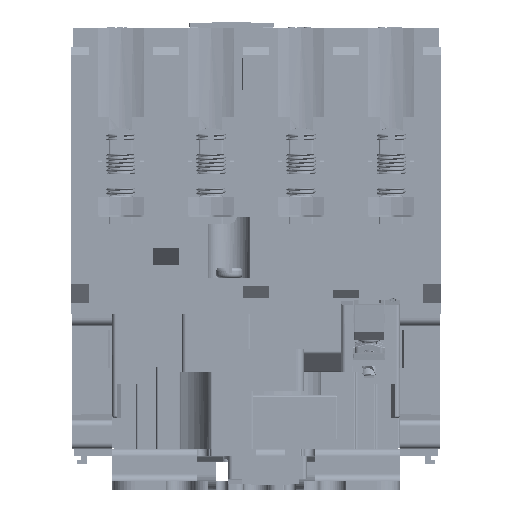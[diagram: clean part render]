
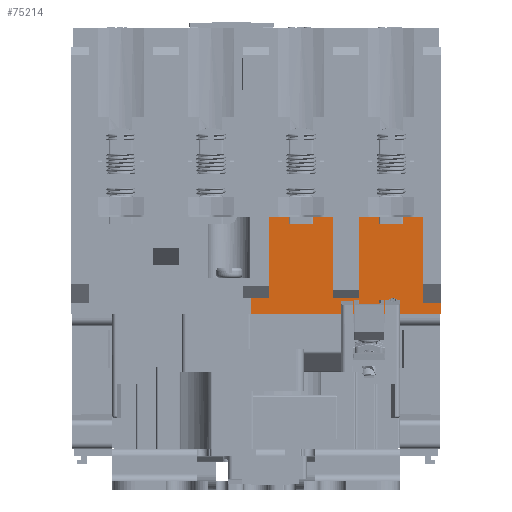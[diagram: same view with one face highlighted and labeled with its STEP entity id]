
A CAD part, left-side view. The second image highlights one B-rep face of the part: STEP entity #75214.
In plain terms, the highlighted planar face has unit normal (-1, 0, 0) as drawn and (0, 1, 0) by its records, which use the part's own axes.
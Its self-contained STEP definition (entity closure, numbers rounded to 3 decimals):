
#70352=DIRECTION('',(0.,0.,1.));
#70353=VECTOR('',#70352,3.);
#70354=CARTESIAN_POINT('',(-48.25,45.75,0.));
#70355=LINE('',#70354,#70353);
#71338=DIRECTION('',(1.,0.,0.));
#71339=VECTOR('',#71338,4.6);
#71340=CARTESIAN_POINT('',(-48.25,45.75,3.));
#71341=LINE('',#71340,#71339);
#71342=DIRECTION('',(1.,0.,0.));
#71343=VECTOR('',#71342,49.5);
#71344=CARTESIAN_POINT('',(-48.25,45.75,0.));
#71345=LINE('',#71344,#71343);
#71346=DIRECTION('',(0.,0.,1.));
#71347=VECTOR('',#71346,4.3);
#71348=CARTESIAN_POINT('',(1.25,45.75,0.));
#71349=LINE('',#71348,#71347);
#71350=DIRECTION('',(0.,0.,-1.));
#71351=VECTOR('',#71350,21.2);
#71352=CARTESIAN_POINT('',(-20.15,45.75,25.5));
#71353=LINE('',#71352,#71351);
#71354=DIRECTION('',(0.,0.,-1.));
#71355=VECTOR('',#71354,22.5);
#71356=CARTESIAN_POINT('',(-43.65,45.75,25.5));
#71357=LINE('',#71356,#71355);
#71526=DIRECTION('',(0.,0.,-1.));
#71527=VECTOR('',#71526,21.2);
#71528=CARTESIAN_POINT('',(-3.35,45.75,25.5));
#71529=LINE('',#71528,#71527);
#71598=DIRECTION('',(0.,0.,-1.));
#71599=VECTOR('',#71598,21.2);
#71600=CARTESIAN_POINT('',(-26.85,45.75,25.5));
#71601=LINE('',#71600,#71599);
#71678=DIRECTION('',(1.,0.,0.));
#71679=VECTOR('',#71678,16.8);
#71680=CARTESIAN_POINT('',(-43.65,45.75,25.5));
#71681=LINE('',#71680,#71679);
#71710=DIRECTION('',(1.,0.,0.));
#71711=VECTOR('',#71710,16.8);
#71712=CARTESIAN_POINT('',(-20.15,45.75,25.5));
#71713=LINE('',#71712,#71711);
#72180=DIRECTION('',(-1.,0.,0.));
#72181=VECTOR('',#72180,6.7);
#72182=CARTESIAN_POINT('',(-20.15,45.75,4.3));
#72183=LINE('',#72182,#72181);
#72188=DIRECTION('',(-1.,0.,0.));
#72189=VECTOR('',#72188,4.6);
#72190=CARTESIAN_POINT('',(1.25,45.75,4.3));
#72191=LINE('',#72190,#72189);
#72591=CARTESIAN_POINT('',(-43.65,45.75,25.5));
#72592=CARTESIAN_POINT('',(-26.85,45.75,25.5));
#72593=VERTEX_POINT('',#72591);
#72594=VERTEX_POINT('',#72592);
#72599=CARTESIAN_POINT('',(-20.15,45.75,25.5));
#72600=CARTESIAN_POINT('',(-3.35,45.75,25.5));
#72601=VERTEX_POINT('',#72599);
#72602=VERTEX_POINT('',#72600);
#72603=CARTESIAN_POINT('',(-48.25,45.75,0.));
#72604=CARTESIAN_POINT('',(-48.25,45.75,3.));
#72605=VERTEX_POINT('',#72603);
#72606=VERTEX_POINT('',#72604);
#72621=CARTESIAN_POINT('',(-43.65,45.75,3.));
#72622=VERTEX_POINT('',#72621);
#73235=CARTESIAN_POINT('',(-26.85,45.75,4.3));
#73236=VERTEX_POINT('',#73235);
#73237=CARTESIAN_POINT('',(-20.15,45.75,4.3));
#73238=VERTEX_POINT('',#73237);
#73239=CARTESIAN_POINT('',(-3.35,45.75,4.3));
#73240=VERTEX_POINT('',#73239);
#73241=CARTESIAN_POINT('',(1.25,45.75,4.3));
#73242=VERTEX_POINT('',#73241);
#73243=CARTESIAN_POINT('',(1.25,45.75,0.));
#73244=VERTEX_POINT('',#73243);
#75187=CARTESIAN_POINT('',(-43.65,45.75,69.8));
#75188=DIRECTION('',(0.,-1.,0.));
#75189=DIRECTION('',(1.,0.,0.));
#75190=AXIS2_PLACEMENT_3D('',#75187,#75188,#75189);
#75191=PLANE('',#75190);
#75192=ORIENTED_EDGE('',*,*,#73490,.T.);
#75194=ORIENTED_EDGE('',*,*,#75193,.T.);
#75196=ORIENTED_EDGE('',*,*,#75195,.T.);
#75198=ORIENTED_EDGE('',*,*,#75197,.F.);
#75200=ORIENTED_EDGE('',*,*,#75199,.F.);
#75202=ORIENTED_EDGE('',*,*,#75201,.T.);
#75204=ORIENTED_EDGE('',*,*,#75203,.T.);
#75206=ORIENTED_EDGE('',*,*,#75205,.F.);
#75208=ORIENTED_EDGE('',*,*,#75207,.F.);
#75209=ORIENTED_EDGE('',*,*,#75159,.T.);
#75210=ORIENTED_EDGE('',*,*,#75180,.F.);
#75211=ORIENTED_EDGE('',*,*,#73940,.F.);
#75212=EDGE_LOOP('',(#75192,#75194,#75196,#75198,#75200,#75202,#75204,#75206,
#75208,#75209,#75210,#75211));
#75213=FACE_OUTER_BOUND('',#75212,.F.);
#75214=ADVANCED_FACE('',(#75213),#75191,.F.);
#73490=EDGE_CURVE('',#72605,#73244,#71345,.T.);
#73940=EDGE_CURVE('',#72605,#72606,#70355,.T.);
#75159=EDGE_CURVE('',#72593,#72622,#71357,.T.);
#75180=EDGE_CURVE('',#72606,#72622,#71341,.T.);
#75193=EDGE_CURVE('',#73244,#73242,#71349,.T.);
#75195=EDGE_CURVE('',#73242,#73240,#72191,.T.);
#75197=EDGE_CURVE('',#72602,#73240,#71529,.T.);
#75199=EDGE_CURVE('',#72601,#72602,#71713,.T.);
#75201=EDGE_CURVE('',#72601,#73238,#71353,.T.);
#75203=EDGE_CURVE('',#73238,#73236,#72183,.T.);
#75205=EDGE_CURVE('',#72594,#73236,#71601,.T.);
#75207=EDGE_CURVE('',#72593,#72594,#71681,.T.);
